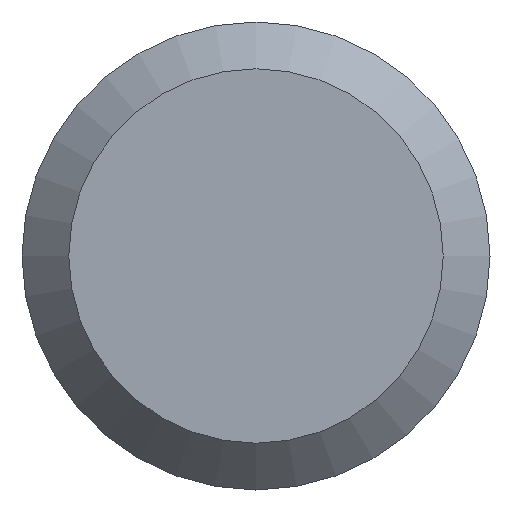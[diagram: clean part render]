
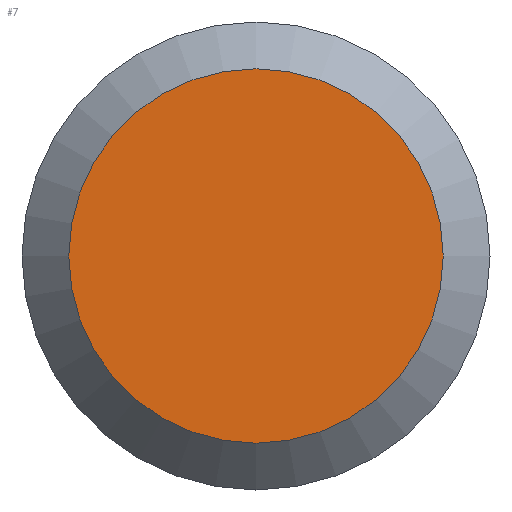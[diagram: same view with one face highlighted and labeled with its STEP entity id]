
A CAD part, left-side view. The second image highlights one B-rep face of the part: STEP entity #7.
In plain terms, the highlighted planar face has unit normal (-1, 0, 0).
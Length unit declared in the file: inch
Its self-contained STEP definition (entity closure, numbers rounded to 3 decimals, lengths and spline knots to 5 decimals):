
#4 = EDGE_LOOP ( 'NONE', ( #150 ) ) ;
#7 = ADVANCED_FACE ( 'NONE', ( #16 ), #195, .F. ) ;
#16 = FACE_OUTER_BOUND ( 'NONE', #4, .T. ) ;
#43 = CARTESIAN_POINT ( 'NONE',  ( 0., 0., 0. ) ) ;
#45 = CIRCLE ( 'NONE', #55, 0.0375 ) ;
#55 = AXIS2_PLACEMENT_3D ( 'NONE', #43, #204, #214 ) ;
#85 = EDGE_CURVE ( 'NONE', #171, #171, #45, .T. ) ;
#127 = CARTESIAN_POINT ( 'NONE',  ( 0., 0.04688, 0. ) ) ;
#150 = ORIENTED_EDGE ( 'NONE', *, *, #85, .T. ) ;
#152 = CARTESIAN_POINT ( 'NONE',  ( 0., 0., -0.0375 ) ) ;
#169 = DIRECTION ( 'NONE',  ( 1., 0., 0. ) ) ;
#171 = VERTEX_POINT ( 'NONE', #152 ) ;
#195 = PLANE ( 'NONE',  #242 ) ;
#204 = DIRECTION ( 'NONE',  ( -1., 0., 0. ) ) ;
#214 = DIRECTION ( 'NONE',  ( 0., 0., -1. ) ) ;
#242 = AXIS2_PLACEMENT_3D ( 'NONE', #127, #169, #243 ) ;
#243 = DIRECTION ( 'NONE',  ( 0., 0., -1. ) ) ;
